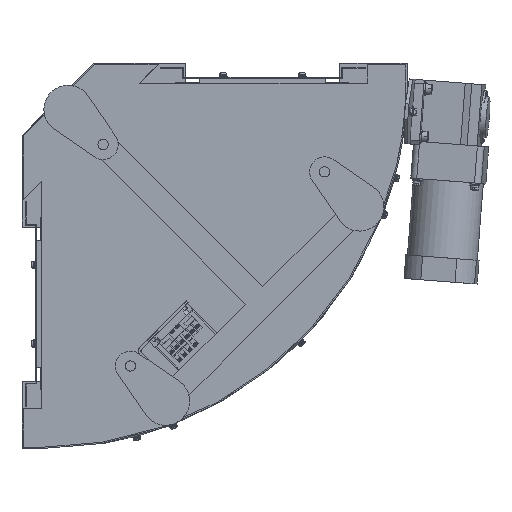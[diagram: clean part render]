
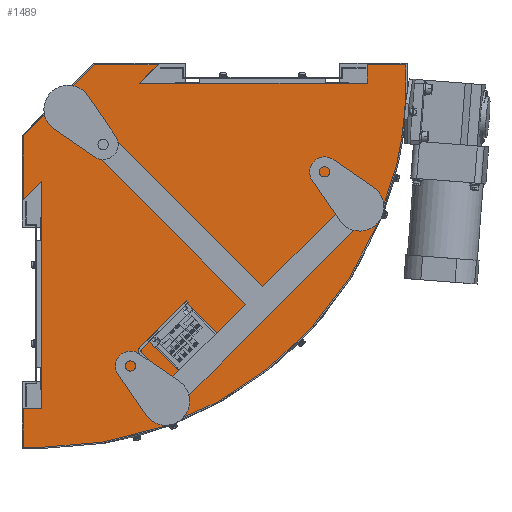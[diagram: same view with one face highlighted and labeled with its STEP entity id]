
A CAD part, front view. The second image highlights one B-rep face of the part: STEP entity #1489.
In plain terms, the highlighted planar face has unit normal (0, -1, 0).
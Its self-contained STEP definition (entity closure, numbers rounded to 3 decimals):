
#1489=ADVANCED_FACE('',(#4052),#4051,.F.);
#4051=PLANE('',#19543);
#4052=FACE_OUTER_BOUND('',#19544,.T.);
#19540=CARTESIAN_POINT('',(-313.4,-143.5,-471.5));
#19541=DIRECTION('',(0.,1.,0.));
#19542=DIRECTION('',(0.,0.,1.));
#19543=AXIS2_PLACEMENT_3D('',#19540,#19541,#19542);
#19544=EDGE_LOOP('',(#28647,#28648,#28649,#28650,#28651,#28652,#28653,#28654,#28655,#28656,#28657,#28658,#28659,#28660,#28661,#28662));
#28647=ORIENTED_EDGE('',*,*,#35984,.F.);
#28648=ORIENTED_EDGE('',*,*,#35985,.T.);
#28649=ORIENTED_EDGE('',*,*,#35986,.T.);
#28650=ORIENTED_EDGE('',*,*,#35987,.T.);
#28651=ORIENTED_EDGE('',*,*,#35988,.T.);
#28652=ORIENTED_EDGE('',*,*,#35989,.T.);
#28653=ORIENTED_EDGE('',*,*,#35990,.T.);
#28654=ORIENTED_EDGE('',*,*,#35991,.T.);
#28655=ORIENTED_EDGE('',*,*,#35992,.T.);
#28656=ORIENTED_EDGE('',*,*,#35993,.T.);
#28657=ORIENTED_EDGE('',*,*,#35994,.F.);
#28658=ORIENTED_EDGE('',*,*,#35995,.T.);
#28659=ORIENTED_EDGE('',*,*,#35996,.T.);
#28660=ORIENTED_EDGE('',*,*,#35997,.T.);
#28661=ORIENTED_EDGE('',*,*,#35998,.T.);
#28662=ORIENTED_EDGE('',*,*,#35999,.T.);
#35984=EDGE_CURVE('',#41588,#41589,#41590,.T.);
#35985=EDGE_CURVE('',#41588,#41596,#41597,.T.);
#35986=EDGE_CURVE('',#41596,#41603,#41604,.T.);
#35987=EDGE_CURVE('',#41603,#41610,#41611,.T.);
#35988=EDGE_CURVE('',#41610,#41617,#41618,.T.);
#35989=EDGE_CURVE('',#41617,#41624,#41625,.T.);
#35990=EDGE_CURVE('',#41624,#41631,#41632,.T.);
#35991=EDGE_CURVE('',#41631,#41638,#41639,.T.);
#35992=EDGE_CURVE('',#41638,#41645,#41646,.T.);
#35993=EDGE_CURVE('',#41645,#41652,#41653,.T.);
#35994=EDGE_CURVE('',#41659,#41652,#41660,.T.);
#35995=EDGE_CURVE('',#41659,#41666,#41667,.T.);
#35996=EDGE_CURVE('',#41666,#41673,#41674,.T.);
#35997=EDGE_CURVE('',#41673,#41680,#41681,.T.);
#35998=EDGE_CURVE('',#41680,#41687,#41688,.T.);
#35999=EDGE_CURVE('',#41687,#41589,#41694,.T.);
#41588=VERTEX_POINT('',#67560);
#41589=VERTEX_POINT('',#67561);
#41590=LINE('',#67562,#67563);
#41596=VERTEX_POINT('',#67565);
#41597=LINE('',#67566,#67567);
#41603=VERTEX_POINT('',#67569);
#41604=LINE('',#67570,#67571);
#41610=VERTEX_POINT('',#67573);
#41611=LINE('',#67574,#67575);
#41617=VERTEX_POINT('',#67577);
#41618=CIRCLE('',#67581,461.5);
#41624=VERTEX_POINT('',#67582);
#41625=CIRCLE('',#67586,461.5);
#41631=VERTEX_POINT('',#67587);
#41632=LINE('',#67588,#67589);
#41638=VERTEX_POINT('',#67591);
#41639=LINE('',#67592,#67593);
#41645=VERTEX_POINT('',#67595);
#41646=LINE('',#67596,#67597);
#41652=VERTEX_POINT('',#67599);
#41653=LINE('',#67600,#67601);
#41659=VERTEX_POINT('',#67603);
#41660=LINE('',#67604,#67605);
#41666=VERTEX_POINT('',#67607);
#41667=LINE('',#67608,#67609);
#41673=VERTEX_POINT('',#67611);
#41674=LINE('',#67612,#67613);
#41680=VERTEX_POINT('',#67615);
#41681=LINE('',#67616,#67617);
#41687=VERTEX_POINT('',#67619);
#41688=LINE('',#67620,#67621);
#41694=LINE('',#67623,#67624);
#67560=CARTESIAN_POINT('',(-280.,-143.5,-412.5));
#67561=CARTESIAN_POINT('',(-280.,-143.5,-124.1));
#67562=CARTESIAN_POINT('',(-280.,-143.5,-412.5));
#67563=VECTOR('',#67564,288.4);
#67564=DIRECTION('',(0.,0.,1.));
#67565=CARTESIAN_POINT('',(-303.4,-143.5,-412.5));
#67566=CARTESIAN_POINT('',(-280.,-143.5,-412.5));
#67567=VECTOR('',#67568,23.4);
#67568=DIRECTION('',(-1.,0.,0.));
#67569=CARTESIAN_POINT('',(-303.4,-143.5,-461.5));
#67570=CARTESIAN_POINT('',(-303.4,-143.5,-412.5));
#67571=VECTOR('',#67572,49.);
#67572=DIRECTION('',(0.,0.,-1.));
#67573=CARTESIAN_POINT('',(-280.,-143.5,-461.5));
#67574=CARTESIAN_POINT('',(-303.4,-143.5,-461.5));
#67575=VECTOR('',#67576,23.4);
#67576=DIRECTION('',(1.,0.,0.));
#67577=CARTESIAN_POINT('',(169.236,-143.5,-105.684));
#67578=CARTESIAN_POINT('',(-280.,-143.5,0.));
#67579=DIRECTION('',(0.,-1.,0.));
#67580=DIRECTION('',(0.,0.,-1.));
#67581=AXIS2_PLACEMENT_3D('',#67578,#67579,#67580);
#67582=CARTESIAN_POINT('',(181.5,-143.5,0.));
#67583=CARTESIAN_POINT('',(-280.,-143.5,0.));
#67584=DIRECTION('',(0.,-1.,0.));
#67585=DIRECTION('',(0.,0.,-1.));
#67586=AXIS2_PLACEMENT_3D('',#67583,#67584,#67585);
#67587=CARTESIAN_POINT('',(181.5,-143.5,7.));
#67588=CARTESIAN_POINT('',(181.5,-143.5,0.));
#67589=VECTOR('',#67590,7.);
#67590=DIRECTION('',(0.,0.,1.));
#67591=CARTESIAN_POINT('',(181.5,-143.5,23.4));
#67592=CARTESIAN_POINT('',(181.5,-143.5,7.));
#67593=VECTOR('',#67594,16.4);
#67594=DIRECTION('',(0.,0.,1.));
#67595=CARTESIAN_POINT('',(132.5,-143.5,23.4));
#67596=CARTESIAN_POINT('',(181.5,-143.5,23.4));
#67597=VECTOR('',#67598,49.);
#67598=DIRECTION('',(-1.,0.,0.));
#67599=CARTESIAN_POINT('',(132.5,-143.5,0.));
#67600=CARTESIAN_POINT('',(132.5,-143.5,23.4));
#67601=VECTOR('',#67602,23.4);
#67602=DIRECTION('',(0.,0.,-1.));
#67603=CARTESIAN_POINT('',(-155.9,-143.5,0.));
#67604=CARTESIAN_POINT('',(-155.9,-143.5,0.));
#67605=VECTOR('',#67606,288.4);
#67606=DIRECTION('',(1.,0.,0.));
#67607=CARTESIAN_POINT('',(-132.5,-143.5,23.4));
#67608=CARTESIAN_POINT('',(-155.9,-143.5,0.));
#67609=VECTOR('',#67610,33.093);
#67610=DIRECTION('',(0.707,0.,0.707));
#67611=CARTESIAN_POINT('',(-213.337,-143.5,23.4));
#67612=CARTESIAN_POINT('',(-132.5,-143.5,23.4));
#67613=VECTOR('',#67614,80.837);
#67614=DIRECTION('',(-1.,0.,0.));
#67615=CARTESIAN_POINT('',(-303.4,-143.5,-66.663));
#67616=CARTESIAN_POINT('',(-213.337,-143.5,23.4));
#67617=VECTOR('',#67618,127.368);
#67618=DIRECTION('',(-0.707,0.,-0.707));
#67619=CARTESIAN_POINT('',(-303.4,-143.5,-147.5));
#67620=CARTESIAN_POINT('',(-303.4,-143.5,-66.663));
#67621=VECTOR('',#67622,80.837);
#67622=DIRECTION('',(0.,0.,-1.));
#67623=CARTESIAN_POINT('',(-303.4,-143.5,-147.5));
#67624=VECTOR('',#67625,33.093);
#67625=DIRECTION('',(0.707,0.,0.707));
